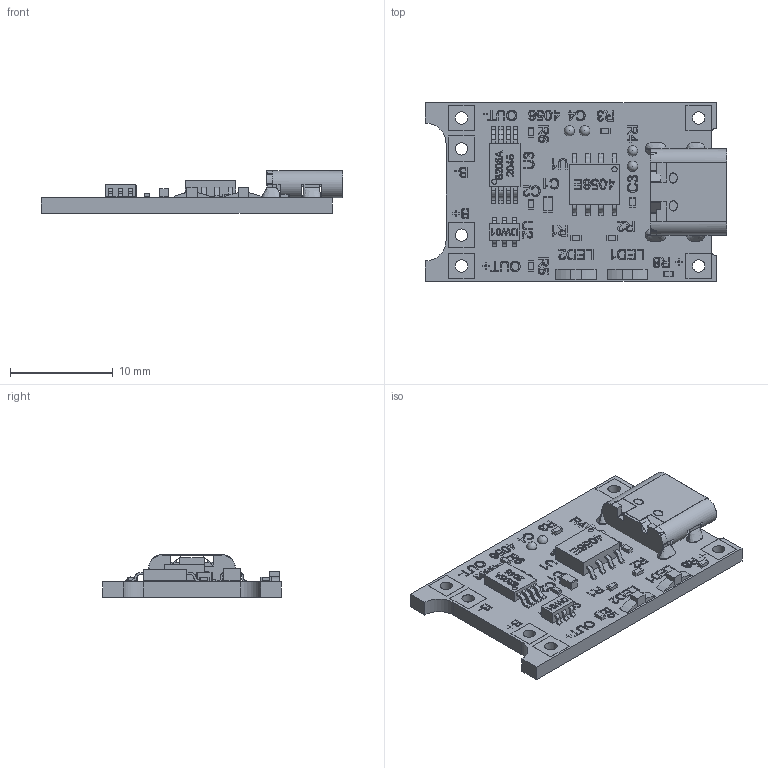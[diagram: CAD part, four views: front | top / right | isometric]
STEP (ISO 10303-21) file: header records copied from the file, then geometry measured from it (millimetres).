
FILE_DESCRIPTION(/* description */ (''),/* implementation_level */ '2;1');
FILE_NAME(/* name */ 'C:/Users/toby_/Desktop/Toby/3D Part Libraries/cm_parts/TP4056 Charging Module/TP4056_Charging_Module_Type_C.step',/* time_stamp */ '2022-04-23T14:04:58+08:00',/* author */ (''),/* organization */ (''),/* preprocessor_version */ 'ST-DEVELOPER v18.1',/* originating_system */ 'Autodesk Translation Framework v10.14.0.1471',/* authorisation */ '');
FILE_SCHEMA (('AUTOMOTIVE_DESIGN { 1 0 10303 214 3 1 1 }'));
Products named in the file (20): TP4056_Charging_Module_Type_C; board; USB_Type_C_Connector; 8205A_2045; DW01-P; small1005_smd_resistor (1); small1005_smd_capacitor; smd_capacitor; SOP-8_4056E; small1005_smd_resistor; solder_dot_round; solder_dot_round (1); solder_dot_round (2); solder_dot_round (3); small1005_smd_capacitor (1); LED2; LED2 (1); small1005_smd_resistor (2); small1005_smd_resistor (4); soldering
Assembly tree (21 placements, depth 2):
  TP4056_Charging_Module_Type_C
    board
    USB_Type_C_Connector
    8205A_2045
    DW01-P
    small1005_smd_resistor  x2
    small1005_smd_resistor (1)
    small1005_smd_capacitor
    smd_capacitor
    SOP-8_4056E
    solder_dot_round
    solder_dot_round (1)
    solder_dot_round (2)
    solder_dot_round (3)
    small1005_smd_capacitor (1)
    LED2
    LED2 (1)
    small1005_smd_resistor (2)
    small1005_smd_resistor (4)  x2
    soldering
Bounding box: 29.3 x 17.4 x 4.14 mm (x, y, z)
Volume: 786.1 mm3; surface area: 1994.9 mm2
Topology: 157 solids, 157 shells, 3799 faces, 10106 edges, 6726 vertices
Faces by surface type: bspline 1904, plane 1759, cylinder 132, sphere 4
Full cylindrical faces by diameter (mm): 0.5 x2, 1.2 x18
Entity records: 139043 total; most frequent: CARTESIAN_POINT 57031, ORIENTED_EDGE 20060, DIRECTION 10384, EDGE_CURVE 10030, VERTEX_POINT 6678, LINE 5978, VECTOR 5978, EDGE_LOOP 4010
